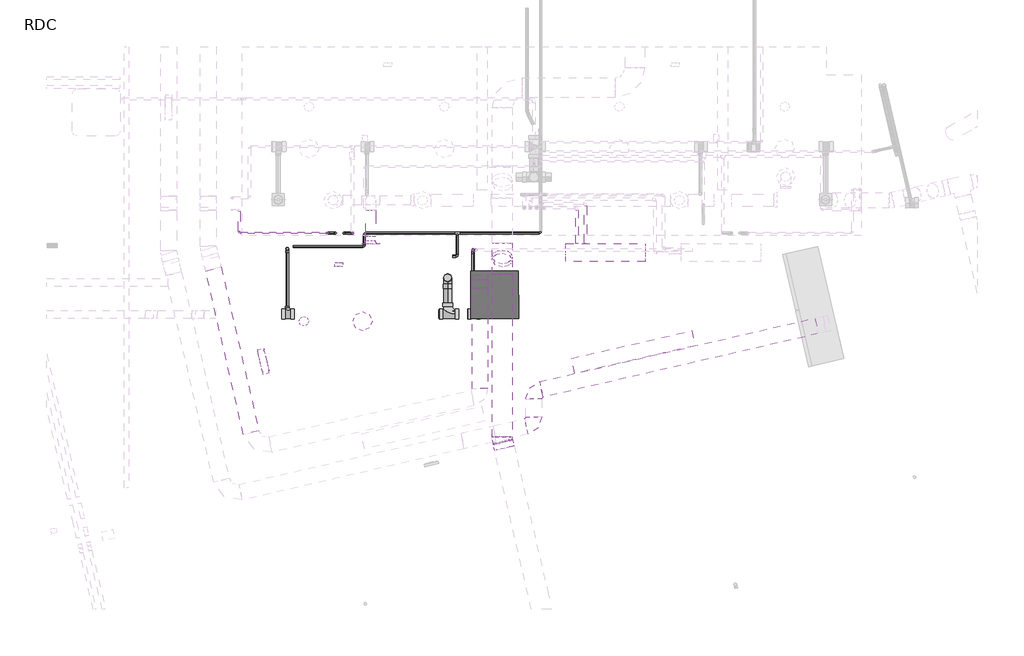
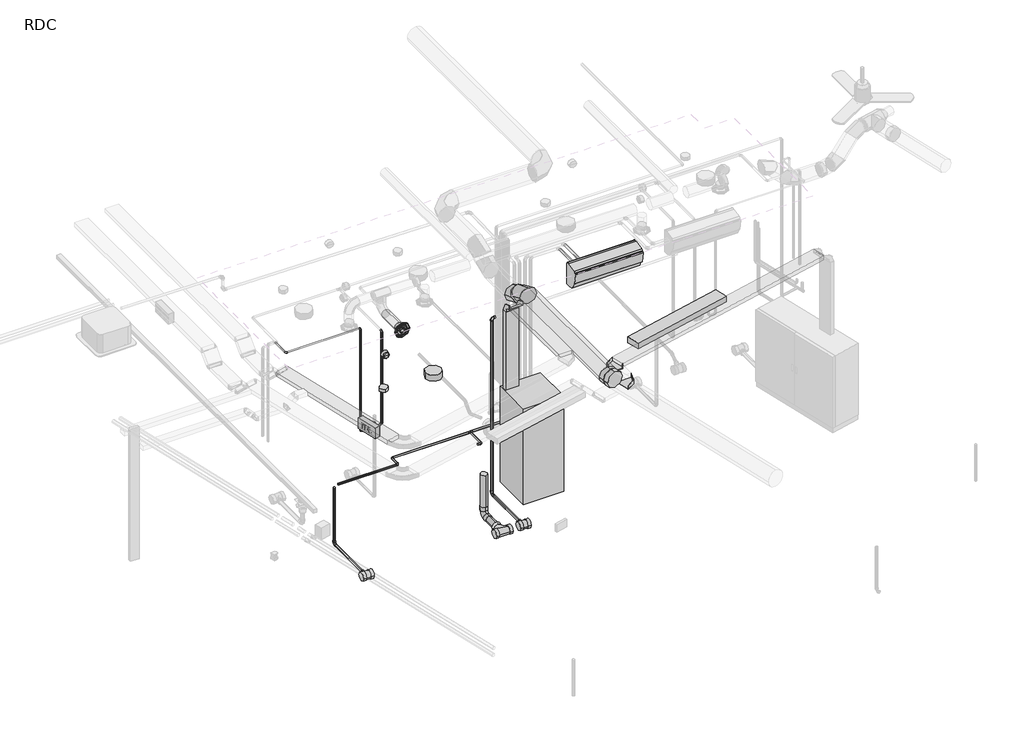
# One storey, part 9 of 15: 22 pipe segments, 19 pipe fittings, 4 cable carrier segments, 4 duct fittings, 4 duct segments, 3 cable carrier fittings, 3 light fixtures, 2 proxies, 3 other elements.
"""IFC4 building model written with IfcOpenShell, lengths in millimetres."""

from ifc_helpers import new_model, si_unit, point, frame, frame_2d, origin, place, context, project, spatial, polyline, circle_curve, trimmed, segment, composite_curve, outline, extrude, transform, mapped, element, save
from components import air_terminal_c84e8fe3, alarm_ff25f4bb, mechanical_equipment_eb6c6a63, electrical_equipment_537ff069, standaard_749a00b5, standaard_62cd015a, coude_circulaire_1_d_eb37eb53, coude_circulaire_1_d_31443521, coude_circulaire_1_d_f93f4f67, union_circulaire_standard_60d5a19b, light_fixture_1fd30b04, ai_luminaire_spot_downlight_a3_0014797d, c1_2018c24c, coude_ff_pvc_u_standard_af8978ce, coude_ff_pvc_u_standard_655a296a, coude_ff_pvc_u_standard_6e6e4d7c, coude_ff_pvc_u_standard_4c98eaa9, standard_59e20ca0, standard_27500dea, standard_3e3143c2, standard_705f3cdf, standard_2678962f, standard_7de1e32a, standard_f2ba753d, d_9511c083

model = new_model("IFC4")

# Units and contexts
model_context = context("Model", 3, world=origin())
ifc_project = project(units=[si_unit("LENGTHUNIT", "METRE", prefix="MILLI")], contexts=[model_context])

# Site, building, storey
site = spatial("IfcSite", under=ifc_project)
building = spatial("IfcBuilding", under=site)
storey = spatial("IfcBuildingStorey", under=building, Name="RDC", Elevation=0.0)

# Air terminal
placement = place(None, origin())
air_terminal_shape = air_terminal_c84e8fe3(model_context)
element("IfcAirTerminal", 1, ObjectType="AI_Bouche aération_Circulaire Extraction : ø125 mm", at=placement, inside=storey, context=model_context, shape_type="MappedRepresentation", body=[
    mapped(air_terminal_shape, transform((33792.8114691, 3719.2261889, 2618.466586), x_axis=(1.0, 1.1090538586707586e-08, 0.0), y_axis=(0.0, 0.0, -1.0000000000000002), z_axis=(-1.1090538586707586e-08, 1.0, 0.0))),
])

# Alarm
alarm_shape = alarm_ff25f4bb(model_context)
element("IfcAlarm", 2, ObjectType="AI_Incendie_Alarme incendie : Flash", at=placement, inside=storey, context=model_context, shape_type="MappedRepresentation", body=[
    mapped(alarm_shape, transform((33390.5364462, 3483.2117237, 2529.5993522), x_axis=(-1.0, 0.0, 0.0), y_axis=(0.0, -1.0, 0.0), z_axis=(0.0, 0.0, 1.0))),
])

# Proxies
mechanical_equipment_shape = mechanical_equipment_eb6c6a63(model_context)
element("IfcBuildingElementProxy", 3, Name="AI_Eqpmt genie clim_Unité intérieure de climatisation : AI_Eqpmt genie clim_Unité intérieure de climatisation", ObjectType="AI_Eqpmt genie clim_Unité intérieure de climatisation : AI_Eqpmt genie clim_Unité intérieure de climatisation", at=placement, inside=storey, context=model_context, shape_type="MappedRepresentation", body=[
    mapped(mechanical_equipment_shape, transform((36747.1335855, 3720.4697131, 2480.0), x_axis=(-1.0, 0.0, 0.0), y_axis=(0.0, -1.0, 0.0), z_axis=(0.0, 0.0, 1.0))),
])
electrical_equipment_shape = electrical_equipment_537ff069(model_context)
element("IfcBuildingElementProxy", 4, Name="AI_Eqpmt elec_Tableau Electrique : Baie de brassage 600x600", ObjectType="AI_Eqpmt elec_Tableau Electrique : Baie de brassage 600x600", at=placement, inside=storey, context=model_context, shape_type="MappedRepresentation", body=[
    mapped(electrical_equipment_shape, transform((35052.5032452, 2774.1373439, 0.0), x_axis=(0.9999986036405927, 0.0016711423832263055, 0.0), y_axis=(-0.0016711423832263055, 0.9999986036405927, 0.0), z_axis=(0.0, 0.0, 1.0))),
])

# Cable carrier fittings
standaard_shape = standaard_749a00b5(model_context)
element("IfcCableCarrierFitting", 5, ObjectType="AI_Raccord cdc_Coude horizontal rayon court : standaard", at=placement, inside=storey, context=model_context, shape_type="MappedRepresentation", body=[
    mapped(standaard_shape, transform((35845.6145705, 1863.6080572, 2470.0), x_axis=(-0.9743711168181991, -0.2249464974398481, 0.0), y_axis=(0.2249464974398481, -0.9743711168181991, 0.0), z_axis=(0.0, 0.0, 1.0))),
])
element("IfcCableCarrierFitting", 6, ObjectType="AI_Raccord cdc_Coude horizontal rayon court : standaard", at=placement, inside=storey, context=model_context, shape_type="MappedRepresentation", body=[
    mapped(standaard_shape, transform((35845.6145705, 1442.7022071, 2470.0), x_axis=(0.9743711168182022, 0.22494649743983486, 0.0), y_axis=(-0.22494649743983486, 0.9743711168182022, 0.0), z_axis=(0.0, 0.0, 1.0))),
])
standaard_2_shape = standaard_62cd015a(model_context)
element("IfcCableCarrierFitting", 7, ObjectType="AI_Raccord cdc_Coude desencdant : standaard", at=placement, inside=storey, context=model_context, shape_type="MappedRepresentation", body=[
    mapped(standaard_2_shape, transform((35168.4331978, 3291.7276745, 2856.9968882), x_axis=(0.0, 1.0, 0.0), y_axis=(0.0, 0.0, -1.0), z_axis=(-1.0, 0.0, 0.0))),
])

# Cable carrier segments
element("IfcCableCarrierSegment", 8, ObjectType="Par défaut", at=placement, inside=storey, context=model_context, shape_type="SweptSolid", body=[
    extrude(outline(polyline([(35962.0900116, 1787.8676579), (35917.1007121, 1982.7418813), (39376.9517384, 2781.4943859), (39421.9410379, 2586.6201626), (35962.0900116, 1787.8676579)])), frame((0.0, 0.0, 2440.0), z_axis=(0.0, 0.0, 1.0), x_axis=(1.0, 0.0, 0.0)), (0.0, 0.0, 1.0), 60.0),
])
element("IfcCableCarrierSegment", 9, ObjectType="Par défaut", at=placement, inside=storey, context=model_context, shape_type="SweptSolid", body=[
    extrude(outline(polyline([(35268.4331978, 1895.9701724), (35068.4331978, 1895.9701724), (35068.4331978, 3160.7276745), (35268.4331978, 3160.7276745), (35268.4331978, 1895.9701724)])), frame((0.0, 0.0, 2826.9968882), z_axis=(0.0, 0.0, 1.0), x_axis=(1.0, 0.0, 0.0)), (0.0, 0.0, 1.0), 60.0),
])
element("IfcCableCarrierSegment", 10, ObjectType="Par défaut", at=placement, inside=storey, context=model_context, shape_type="SweptSolid", body=[
    extrude(outline(polyline([(32389.1538262, 1364.1707968), (32194.2796029, 1319.1814974), (31719.3165471, 3376.5164119), (31914.1907705, 3421.5057114), (32389.1538262, 1364.1707968)])), frame((0.0, 0.0, 2826.9968882), z_axis=(0.0, 0.0, 1.0), x_axis=(1.0, 0.0, 0.0)), (0.0, 0.0, 1.0), 60.0),
])
element("IfcCableCarrierSegment", 11, ObjectType="Par défaut", at=placement, inside=storey, context=model_context, shape_type="SweptSolid", body=[
    extrude(outline(polyline([(35268.4331978, 3261.7276745), (35068.4331978, 3261.7276745), (35068.4331978, 3321.7276745), (35268.4331978, 3321.7276745), (35268.4331978, 3261.7276745)])), frame((0.0, 0.0, 1500.0), z_axis=(0.0, 0.0, 1.0), x_axis=(1.0, 0.0, 0.0)), (0.0, 0.0, 1.0), 1225.9968882),
])

# Duct fittings
coude_circulaire_1_d_shape = coude_circulaire_1_d_eb37eb53(model_context)
element("IfcDuctFitting", 12, ObjectType="Coude circulaire : 1 D", at=placement, inside=storey, context=model_context, shape_type="MappedRepresentation", body=[
    mapped(coude_circulaire_1_d_shape, transform((35447.7742038, 3625.2016603, 2625.4415588), x_axis=(0.0, -1.0, 0.0), y_axis=(0.0, 0.0, 1.0), z_axis=(-1.0, 0.0, 0.0))),
])
coude_circulaire_1_d_2_shape = coude_circulaire_1_d_31443521(model_context)
element("IfcDuctFitting", 13, ObjectType="Coude circulaire : 1 D", at=placement, inside=storey, context=model_context, shape_type="MappedRepresentation", body=[
    mapped(coude_circulaire_1_d_2_shape, transform((35447.7742038, 1258.7009649, 2809.9241255), x_axis=(0.0, -0.9999999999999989, 4.87450699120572e-08), y_axis=(0.9999997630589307, -3.3555664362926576e-11, -0.0006883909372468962), z_axis=(0.0006883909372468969, 4.8745058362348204e-08, 0.9999997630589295))),
])
coude_circulaire_1_d_3_shape = coude_circulaire_1_d_f93f4f67(model_context)
element("IfcDuctFitting", 14, ObjectType="Coude circulaire : 1 D", at=placement, inside=storey, context=model_context, shape_type="MappedRepresentation", body=[
    mapped(coude_circulaire_1_d_3_shape, transform((35447.7742038, 3440.7234585, 2809.9197606), x_axis=(0.0, -0.7071067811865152, 0.70710678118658), y_axis=(0.0, -0.70710678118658, -0.7071067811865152), z_axis=(1.0, 0.0, 0.0))),
])
union_circulaire_standard_shape = union_circulaire_standard_60d5a19b(model_context)
element("IfcDuctFitting", 15, ObjectType="Union circulaire : Standard", at=placement, inside=storey, context=model_context, shape_type="MappedRepresentation", body=[
    mapped(union_circulaire_standard_shape, transform((35457.1964705, 1217.8899247, 2809.9176412), x_axis=(0.22495775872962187, -0.9743685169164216, -5.425734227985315e-06), y_axis=(0.9743685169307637, 0.22495775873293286, 4.384215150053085e-11), z_axis=(1.2205182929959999e-06, -5.286674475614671e-06, 0.9999999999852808))),
])

# Duct segments
element("IfcDuctSegment", 16, ObjectType="Circulaire - Té", at=placement, inside=storey, context=model_context, shape_type="SweptSolid", body=[
    extrude(outline(composite_curve([segment(trimmed(circle_curve(frame_2d((0.0, 125.0)), 125.0), [point((0.0, 0.0))], [point((-125.0, 125.0))], False, "CARTESIAN"), True, "CONTINUOUS"), segment(trimmed(circle_curve(frame_2d((0.0, 125.0)), 125.0), [point((-125.0, 125.0))], [point((0.0, 250.0))], False, "CARTESIAN"), True, "CONTINUOUS"), segment(trimmed(circle_curve(frame_2d((0.0, 125.0)), 125.0), [point((0.0, 250.0))], [point((125.0, 125.0))], False, "CARTESIAN"), True, "CONTINUOUS"), segment(trimmed(circle_curve(frame_2d((0.0, 125.0)), 125.0), [point((125.0, 125.0))], [point((0.0, 0.0))], False, "CARTESIAN"), True, "CONTINUOUS")], self_intersect=False)), frame((35322.7742038, 3337.170075, 2809.9197657), z_axis=(0.0, -0.99999999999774, 2.126060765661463e-06), x_axis=(0.0, -2.126060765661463e-06, -0.99999999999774)), (0.0, 0.0, 1.0), 2049.9843306),
])
element("IfcDuctSegment", 17, ObjectType="Circulaire - Té", at=placement, inside=storey, context=model_context, shape_type="SweptSolid", body=[
    extrude(outline(composite_curve([segment(trimmed(circle_curve(frame_2d((0.0, 62.5)), 62.5), [point((0.0, 125.0))], [point((62.5, 62.5))], False, "CARTESIAN"), True, "CONTINUOUS"), segment(trimmed(circle_curve(frame_2d((0.0, 62.5)), 62.5), [point((62.5, 62.5))], [point((0.0, 0.0))], False, "CARTESIAN"), True, "CONTINUOUS"), segment(trimmed(circle_curve(frame_2d((0.0, 62.5)), 62.5), [point((0.0, 0.0))], [point((-62.5, 62.5))], False, "CARTESIAN"), True, "CONTINUOUS"), segment(trimmed(circle_curve(frame_2d((0.0, 62.5)), 62.5), [point((-62.5, 62.5))], [point((0.0, 125.0))], False, "CARTESIAN"), True, "CONTINUOUS")], self_intersect=False)), frame((33730.3114681, 3805.8261883, 2618.466586), z_axis=(-1.084460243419e-08, 1.0, 0.0), x_axis=(0.0, 0.0, 1.0)), (0.0, 0.0, 1.0), 332.5466997),
])
element("IfcDuctSegment", 18, ObjectType="Circulaire - Té", at=placement, inside=storey, context=model_context, shape_type="SweptSolid", body=[
    extrude(outline(composite_curve([segment(trimmed(circle_curve(frame_2d((0.0, -125.0)), 125.0), [point((-125.0, -125.0))], [point((0.0, 0.0))], False, "CARTESIAN"), True, "CONTINUOUS"), segment(trimmed(circle_curve(frame_2d((0.0, -125.0)), 125.0), [point((0.0, 0.0))], [point((125.0, -125.0))], False, "CARTESIAN"), True, "CONTINUOUS"), segment(trimmed(circle_curve(frame_2d((0.0, -125.0)), 125.0), [point((125.0, -125.0))], [point((0.0, -250.0))], False, "CARTESIAN"), True, "CONTINUOUS"), segment(trimmed(circle_curve(frame_2d((0.0, -125.0)), 125.0), [point((0.0, -250.0))], [point((-125.0, -125.0))], False, "CARTESIAN"), True, "CONTINUOUS")], self_intersect=False)), frame((35457.1964705, 1217.8899247, 2684.9197157), z_axis=(-0.2249577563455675, 0.9743685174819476, 0.0), x_axis=(0.9743685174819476, 0.2249577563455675, 0.0)), (0.0, 0.0, 1.0), 13.3998311),
])
element("IfcDuctSegment", 19, ObjectType="Circulaire - Té", at=placement, inside=storey, context=model_context, shape_type="SweptSolid", body=[
    extrude(outline(composite_curve([segment(trimmed(circle_curve(frame_2d((0.0, 125.0)), 125.0), [point((-125.0, 125.0))], [point((0.0, 250.0))], False, "CARTESIAN"), True, "CONTINUOUS"), segment(trimmed(circle_curve(frame_2d((0.0, 125.0)), 125.0), [point((0.0, 250.0))], [point((125.0, 125.0))], False, "CARTESIAN"), True, "CONTINUOUS"), segment(trimmed(circle_curve(frame_2d((0.0, 125.0)), 125.0), [point((125.0, 125.0))], [point((0.0, 0.0))], False, "CARTESIAN"), True, "CONTINUOUS"), segment(trimmed(circle_curve(frame_2d((0.0, 125.0)), 125.0), [point((0.0, 0.0))], [point((-125.0, 125.0))], False, "CARTESIAN"), True, "CONTINUOUS")], self_intersect=False)), frame((35447.7742038, 3463.590008, 2610.2765158), z_axis=(0.0, -0.707106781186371, 0.7071067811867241), x_axis=(1.0, 0.0, 0.0)), (0.0, 0.0, 1.0), 53.784801),
])

# Light fixtures
light_fixture_shape = light_fixture_1fd30b04(model_context)
element("IfcLightFixture", 20, ObjectType="AI_Luminaire_BAES : Sortie", at=placement, inside=storey, context=model_context, shape_type="MappedRepresentation", body=[
    mapped(light_fixture_shape, transform((32445.2740237, 2237.3147661, 2420.4480749), x_axis=(0.22495105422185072, -0.9743700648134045, 0.0), y_axis=(0.9743700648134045, 0.22495105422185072, 0.0), z_axis=(0.0, 0.0, 1.0))),
])
ai_luminaire_spot_downlight_a3_shape = ai_luminaire_spot_downlight_a3_0014797d(model_context)
element("IfcLightFixture", 21, ObjectType="AI_Luminaire_Spot Downlight : A4", at=placement, inside=storey, context=model_context, shape_type="MappedRepresentation", body=[
    mapped(ai_luminaire_spot_downlight_a3_shape, transform((33692.4283118, 2742.6519707, 2610.0), x_axis=(1.0, 0.0, 0.0), y_axis=(0.0, 1.0, 0.0), z_axis=(0.0, 0.0, 1.0))),
])
c1_shape = c1_2018c24c(model_context)
element("IfcLightFixture", 22, ObjectType="AI_Luminaire_Réglette locaux techniques et parkings : C1", at=placement, inside=storey, context=model_context, shape_type="MappedRepresentation", body=[
    mapped(c1_shape, transform((37095.3340951, 2354.8172296, 2500.0), x_axis=(0.9743711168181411, 0.22494649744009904, 0.0), y_axis=(-0.22494649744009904, 0.9743711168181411, 0.0), z_axis=(0.0, 0.0, 1.0))),
])

# Pipe fittings
coude_ff_pvc_u_standard_shape = coude_ff_pvc_u_standard_af8978ce(model_context)
element("IfcPipeFitting", 23, ObjectType="Coude - FF - PVC-U : Standard", at=placement, inside=storey, context=model_context, shape_type="MappedRepresentation", body=[
    mapped(coude_ff_pvc_u_standard_shape, transform((32747.2454345, 3654.0745089, -337.6207856), x_axis=(3.547288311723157e-05, 0.0, -0.9999999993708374), y_axis=(-2.724041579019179e-08, -0.9999999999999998, 0.0), z_axis=(-0.999999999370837, 2.724041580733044e-08, -3.547288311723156e-05))),
])
coude_ff_pvc_u_standard_2_shape = coude_ff_pvc_u_standard_655a296a(model_context)
element("IfcPipeFitting", 24, ObjectType="Coude - FF - PVC-U : Standard", at=placement, inside=storey, context=model_context, shape_type="MappedRepresentation", body=[
    mapped(coude_ff_pvc_u_standard_2_shape, transform((34761.5002301, 3289.4310661, -358.933847), x_axis=(3.4836021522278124e-05, 0.0, -0.9999999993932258), y_axis=(6.745219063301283e-08, -0.9999999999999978, 2.3497659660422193e-12), z_axis=(-0.9999999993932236, -6.745219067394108e-08, -3.483602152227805e-05))),
])
coude_ff_pvc_u_standard_3_shape = coude_ff_pvc_u_standard_6e6e4d7c(model_context)
element("IfcPipeFitting", 25, ObjectType="Coude - FF - PVC-U : Standard", at=placement, inside=storey, context=model_context, shape_type="MappedRepresentation", body=[
    mapped(coude_ff_pvc_u_standard_3_shape, transform((35082.0810782, 3638.1434665, -361.5485338), x_axis=(0.0, 0.0, -1.0), y_axis=(0.0, -1.0, 0.0), z_axis=(-1.0, 0.0, 0.0))),
])
coude_ff_pvc_u_standard_4_shape = coude_ff_pvc_u_standard_4c98eaa9(model_context)
element("IfcPipeFitting", 26, ObjectType="Coude - FF - PVC-U : Standard", at=placement, inside=storey, context=model_context, shape_type="MappedRepresentation", body=[
    mapped(coude_ff_pvc_u_standard_4_shape, transform((35082.0810782, 3638.1434665, 2402.254311), x_axis=(-0.9998875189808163, 0.0, -0.014998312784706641), y_axis=(0.014998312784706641, 0.0, -0.9998875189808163), z_axis=(0.0, -1.0, 0.0))),
])
standard_shape = standard_59e20ca0(model_context)
element("IfcPipeFitting", 27, ObjectType="Coude - Générique1 : Standard", at=placement, inside=storey, context=model_context, shape_type="MappedRepresentation", body=[
    mapped(standard_shape, transform((34883.3061384, 3559.6976986, 550.7021999), x_axis=(0.999999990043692, 1.582188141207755e-05, 0.00014022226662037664), y_axis=(-1.582250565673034e-05, 0.9999999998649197, 4.4507143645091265e-06), z_axis=(-0.00014022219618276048, -4.4529329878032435e-06, 0.9999999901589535))),
])
standard_2_shape = standard_27500dea(model_context)
element("IfcPipeFitting", 28, ObjectType="EG-RCAN Té sanitaire de réduction - PVC - Nom. 40 - DWV : Standard", at=placement, inside=storey, context=model_context, shape_type="MappedRepresentation", body=[
    mapped(standard_2_shape, transform((32747.2456796, 2832.6862635, -338.1795416), x_axis=(-0.9999500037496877, 0.0, 0.00999950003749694), y_axis=(-7.678420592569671e-06, -0.9999997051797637, -0.0007678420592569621), z_axis=(0.009999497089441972, -0.0007678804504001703, 0.999949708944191))),
])
standard_3_shape = standard_3e3143c2(model_context)
element("IfcPipeFitting", 29, ObjectType="EG-RCAN Té sanitaire de réduction - PVC - Nom. 40 - DWV : Standard", at=placement, inside=storey, context=model_context, shape_type="MappedRepresentation", body=[
    mapped(standard_3_shape, transform((34761.4999901, 2832.6862635, -358.3220847), x_axis=(-0.9999500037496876, 0.0, 0.009999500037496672), y_axis=(1.9360724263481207e-05, -0.9999981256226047, 0.0019360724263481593), z_axis=(0.009999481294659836, 0.0019361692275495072, 0.999948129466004))),
])
standard_4_shape = standard_705f3cdf(model_context)
element("IfcPipeFitting", 30, ObjectType="EG-RCAN Té sanitaire de réduction - PVC - Nom. 40 - DWV : Standard", at=placement, inside=storey, context=model_context, shape_type="MappedRepresentation", body=[
    mapped(standard_4_shape, transform((35082.0810782, 2832.6862635, -361.5278956), x_axis=(-0.9999500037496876, 0.0, 0.009999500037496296), y_axis=(2.899592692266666e-07, -0.9999999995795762, 2.8995926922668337e-05), z_axis=(0.009999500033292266, 2.8997376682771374e-05, 0.9999500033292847))),
])
standard_5_shape = standard_2678962f(model_context)
element("IfcPipeFitting", 31, ObjectType="Coude - Générique1 : Standard", at=placement, inside=storey, context=model_context, shape_type="MappedRepresentation", body=[
    mapped(standard_5_shape, transform((33455.8300042, 3851.7284903, 1134.9792289), x_axis=(0.0, 0.0, -1.0), y_axis=(0.9999999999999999, 1.4342634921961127e-08, 0.0), z_axis=(1.4342634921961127e-08, -0.9999999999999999, 0.0))),
])
element("IfcPipeFitting", 32, ObjectType="Coude - Générique1 : Standard", at=placement, inside=storey, context=model_context, shape_type="MappedRepresentation", body=[
    mapped(standard_5_shape, transform((33565.538418, 3851.7284919, 1134.9792289), x_axis=(1.0, 1.4342614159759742e-08, 0.0), y_axis=(0.0, 0.0, 1.0000000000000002), z_axis=(1.4342614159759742e-08, -1.0, 0.0))),
])
element("IfcPipeFitting", 33, ObjectType="Coude - Générique1 : Standard", at=placement, inside=storey, context=model_context, shape_type="MappedRepresentation", body=[
    mapped(standard_5_shape, transform((33565.538418, 3851.7284919, 2602.0893087), x_axis=(0.0, 0.0, 1.0), y_axis=(0.0, 1.0, 0.0), z_axis=(-1.0, 0.0, 0.0))),
])
element("IfcPipeFitting", 34, ObjectType="Coude - Générique1 : Standard", at=placement, inside=storey, context=model_context, shape_type="MappedRepresentation", body=[
    mapped(standard_5_shape, transform((35931.0163974, 3851.7263404, 550.7), x_axis=(1.0, 0.0, 0.0), y_axis=(0.0, 0.9999999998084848, -1.9571164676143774e-05), z_axis=(0.0, 1.9571164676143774e-05, 0.9999999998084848))),
])
element("IfcPipeFitting", 35, ObjectType="Coude - Générique1 : Standard", at=placement, inside=storey, context=model_context, shape_type="MappedRepresentation", body=[
    mapped(standard_5_shape, transform((33714.3061384, 3851.7263404, 550.7), x_axis=(-1.0, 0.0, 0.0), y_axis=(0.0, -0.9999999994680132, -3.261860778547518e-05), z_axis=(0.0, -3.261860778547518e-05, 0.9999999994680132))),
])
element("IfcPipeFitting", 36, ObjectType="Coude - Générique1 : Standard", at=placement, inside=storey, context=model_context, shape_type="MappedRepresentation", body=[
    mapped(standard_5_shape, transform((33714.3061384, 3681.7263404, 550.6941287), x_axis=(1.0, 0.0, 0.0), y_axis=(0.0, 0.9999999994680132, 3.2618607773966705e-05), z_axis=(0.0, -3.2618607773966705e-05, 0.9999999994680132))),
])
standard_6_shape = standard_7de1e32a(model_context)
element("IfcPipeFitting", 37, ObjectType="Coude - Générique1 : Standard", at=placement, inside=storey, context=model_context, shape_type="MappedRepresentation", body=[
    mapped(standard_6_shape, transform((33355.8300042, 3851.726328, 1134.9792289), x_axis=(0.0, 0.0, -1.0), y_axis=(0.9999999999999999, 1.4342639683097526e-08, 0.0), z_axis=(1.4342639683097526e-08, -0.9999999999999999, 0.0))),
])
element("IfcPipeFitting", 38, ObjectType="Coude - Générique1 : Standard", at=placement, inside=storey, context=model_context, shape_type="MappedRepresentation", body=[
    mapped(standard_6_shape, transform((33253.4139802, 3851.7263265, 1134.9792289), x_axis=(-0.9999999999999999, -1.434263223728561e-08, 0.0), y_axis=(0.0, 0.0, -1.0), z_axis=(1.434263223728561e-08, -0.9999999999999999, 0.0))),
])
element("IfcPipeFitting", 39, ObjectType="Coude - Générique1 : Standard", at=placement, inside=storey, context=model_context, shape_type="MappedRepresentation", body=[
    mapped(standard_6_shape, transform((33253.4139802, 3851.7263265, 2752.0893087), x_axis=(0.0, 0.0, 1.0), y_axis=(0.9999999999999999, 1.4342638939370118e-08, 0.0), z_axis=(-1.4342638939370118e-08, 0.9999999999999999, 0.0))),
])
element("IfcPipeFitting", 40, ObjectType="Coude - Générique1 : Standard", at=placement, inside=storey, context=model_context, shape_type="MappedRepresentation", body=[
    mapped(standard_6_shape, transform((32141.8155376, 3851.7263263, 2752.0893087), x_axis=(-1.0, 0.0, 0.0), y_axis=(0.0, -1.0, 0.0), z_axis=(0.0, 0.0, 1.0))),
])
standard_7_shape = standard_f2ba753d(model_context)
element("IfcPipeFitting", 41, ObjectType="Té - Générique : Standard", at=placement, inside=storey, context=model_context, shape_type="MappedRepresentation", body=[
    mapped(standard_7_shape, transform((34883.3061384, 3851.7263404, 550.7), x_axis=(-1.0, 0.0, 0.0), y_axis=(0.0, 0.9999999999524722, -9.749641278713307e-06), z_axis=(0.0, -9.749641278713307e-06, -0.9999999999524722))),
])

# Pipe segments
element("IfcPipeSegment", 42, ObjectType="Cuivre - Té", at=placement, inside=storey, context=model_context, shape_type="SweptSolid", body=[
    extrude(outline(composite_curve([segment(trimmed(circle_curve(frame_2d((33355.8300042, 3851.726328)), 9.525), [point((33365.3550042, 3851.726328))], [point((33355.8300042, 3842.201328))], False, "CARTESIAN"), True, "CONTINUOUS"), segment(trimmed(circle_curve(frame_2d((33355.8300042, 3851.726328)), 9.525), [point((33355.8300042, 3842.201328))], [point((33346.3050042, 3851.726328))], False, "CARTESIAN"), True, "CONTINUOUS"), segment(trimmed(circle_curve(frame_2d((33355.8300042, 3851.726328)), 9.525), [point((33346.3050042, 3851.726328))], [point((33355.8300042, 3861.251328))], False, "CARTESIAN"), True, "CONTINUOUS"), segment(trimmed(circle_curve(frame_2d((33355.8300042, 3851.726328)), 9.525), [point((33355.8300042, 3861.251328))], [point((33365.3550042, 3851.726328))], False, "CARTESIAN"), True, "CONTINUOUS")], self_intersect=False)), frame((0.0, 0.0, 1153.8909477), z_axis=(0.0, 0.0, 1.0), x_axis=(1.0, 0.0, 0.0)), (0.0, 0.0, 1.0), 46.1090523),
])
element("IfcPipeSegment", 43, ObjectType="Cuivre - Té", at=placement, inside=storey, context=model_context, shape_type="SweptSolid", body=[
    extrude(outline(composite_curve([segment(trimmed(circle_curve(frame_2d((0.0, -9.525)), 9.525), [point((-9.525, -9.525))], [point((0.0, 0.0))], False, "CARTESIAN"), True, "CONTINUOUS"), segment(trimmed(circle_curve(frame_2d((0.0, -9.525)), 9.525), [point((0.0, 0.0))], [point((9.525, -9.525))], False, "CARTESIAN"), True, "CONTINUOUS"), segment(trimmed(circle_curve(frame_2d((0.0, -9.525)), 9.525), [point((9.525, -9.525))], [point((0.0, -19.05))], False, "CARTESIAN"), True, "CONTINUOUS"), segment(trimmed(circle_curve(frame_2d((0.0, -9.525)), 9.525), [point((0.0, -19.05))], [point((-9.525, -9.525))], False, "CARTESIAN"), True, "CONTINUOUS")], self_intersect=False)), frame((33272.325699, 3851.7263268, 1125.4542289), z_axis=(1.0, 1.4342631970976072e-08, 0.0), x_axis=(1.4342631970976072e-08, -1.0, 0.0)), (0.0, 0.0, 1.0), 64.5925864),
])
element("IfcPipeSegment", 44, ObjectType="Cuivre - Té", at=placement, inside=storey, context=model_context, shape_type="SweptSolid", body=[
    extrude(outline(composite_curve([segment(trimmed(circle_curve(frame_2d((33253.4139802, 3851.7263265)), 9.525), [point((33243.8889802, 3851.7263265))], [point((33253.4139802, 3861.2513265))], False, "CARTESIAN"), True, "CONTINUOUS"), segment(trimmed(circle_curve(frame_2d((33253.4139802, 3851.7263265)), 9.525), [point((33253.4139802, 3861.2513265))], [point((33262.9389802, 3851.7263265))], False, "CARTESIAN"), True, "CONTINUOUS"), segment(trimmed(circle_curve(frame_2d((33253.4139802, 3851.7263265)), 9.525), [point((33262.9389802, 3851.7263265))], [point((33253.4139802, 3842.2013265))], False, "CARTESIAN"), True, "CONTINUOUS"), segment(trimmed(circle_curve(frame_2d((33253.4139802, 3851.7263265)), 9.525), [point((33253.4139802, 3842.2013265))], [point((33243.8889802, 3851.7263265))], False, "CARTESIAN"), True, "CONTINUOUS")], self_intersect=False)), frame((0.0, 0.0, 1153.8909477), z_axis=(0.0, 0.0, 1.0), x_axis=(1.0, 0.0, 0.0)), (0.0, 0.0, 1.0), 1579.2866423),
])
element("IfcPipeSegment", 45, ObjectType="Cuivre - Té", at=placement, inside=storey, context=model_context, shape_type="SweptSolid", body=[
    extrude(outline(composite_curve([segment(trimmed(circle_curve(frame_2d((3851.7263263, 2752.0893087)), 9.525), [point((3861.2513263, 2752.0893087))], [point((3851.7263263, 2742.5643087))], False, "CARTESIAN"), True, "CONTINUOUS"), segment(trimmed(circle_curve(frame_2d((3851.7263263, 2752.0893087)), 9.525), [point((3851.7263263, 2742.5643087))], [point((3842.2013263, 2752.0893087))], False, "CARTESIAN"), True, "CONTINUOUS"), segment(trimmed(circle_curve(frame_2d((3851.7263263, 2752.0893087)), 9.525), [point((3842.2013263, 2752.0893087))], [point((3851.7263263, 2761.6143087))], False, "CARTESIAN"), True, "CONTINUOUS"), segment(trimmed(circle_curve(frame_2d((3851.7263263, 2752.0893087)), 9.525), [point((3851.7263263, 2761.6143087))], [point((3861.2513263, 2752.0893087))], False, "CARTESIAN"), True, "CONTINUOUS")], self_intersect=False)), frame((32160.7272563, 0.0, 0.0), z_axis=(1.0, 0.0, 0.0), x_axis=(0.0, 1.0, 0.0)), (0.0, 0.0, 1.0), 1073.7750052),
])
element("IfcPipeSegment", 46, ObjectType="Cuivre - Té", at=placement, inside=storey, context=model_context, shape_type="SweptSolid", body=[
    extrude(outline(composite_curve([segment(trimmed(circle_curve(frame_2d((2752.0893087, 32141.8155376)), 9.525), [point((2752.0893087, 32151.3405376))], [point((2761.6143087, 32141.8155376))], False, "CARTESIAN"), True, "CONTINUOUS"), segment(trimmed(circle_curve(frame_2d((2752.0893087, 32141.8155376)), 9.525), [point((2761.6143087, 32141.8155376))], [point((2752.0893087, 32132.2905376))], False, "CARTESIAN"), True, "CONTINUOUS"), segment(trimmed(circle_curve(frame_2d((2752.0893087, 32141.8155376)), 9.525), [point((2752.0893087, 32132.2905376))], [point((2742.5643087, 32141.8155376))], False, "CARTESIAN"), True, "CONTINUOUS"), segment(trimmed(circle_curve(frame_2d((2752.0893087, 32141.8155376)), 9.525), [point((2742.5643087, 32141.8155376))], [point((2752.0893087, 32151.3405376))], False, "CARTESIAN"), True, "CONTINUOUS")], self_intersect=False)), frame((0.0, 3870.638045, 0.0), z_axis=(0.0, 1.0, 0.0), x_axis=(0.0, 0.0, 1.0)), (0.0, 0.0, 1.0), 254.5745008),
])
element("IfcPipeSegment", 47, ObjectType="PVC Pression HTA", at=placement, inside=storey, context=model_context, shape_type="SweptSolid", body=[
    extrude(outline(composite_curve([segment(trimmed(circle_curve(frame_2d((33455.8300042, 3851.7284903)), 13.335), [point((33469.1650042, 3851.7284903))], [point((33455.8300042, 3838.3934903))], False, "CARTESIAN"), True, "CONTINUOUS"), segment(trimmed(circle_curve(frame_2d((33455.8300042, 3851.7284903)), 13.335), [point((33455.8300042, 3838.3934903))], [point((33442.4950042, 3851.7284903))], False, "CARTESIAN"), True, "CONTINUOUS"), segment(trimmed(circle_curve(frame_2d((33455.8300042, 3851.7284903)), 13.335), [point((33442.4950042, 3851.7284903))], [point((33455.8300042, 3865.0634903))], False, "CARTESIAN"), True, "CONTINUOUS"), segment(trimmed(circle_curve(frame_2d((33455.8300042, 3851.7284903)), 13.335), [point((33455.8300042, 3865.0634903))], [point((33469.1650042, 3851.7284903))], False, "CARTESIAN"), True, "CONTINUOUS")], self_intersect=False)), frame((0.0, 0.0, 1153.8909477), z_axis=(0.0, 0.0, 1.0), x_axis=(1.0, 0.0, 0.0)), (0.0, 0.0, 1.0), 46.1285836),
])
element("IfcPipeSegment", 48, ObjectType="PVC Pression HTA", at=placement, inside=storey, context=model_context, shape_type="SweptSolid", body=[
    extrude(outline(composite_curve([segment(trimmed(circle_curve(frame_2d((0.0, 13.335)), 13.335), [point((-13.335, 13.335))], [point((0.0, 26.67))], False, "CARTESIAN"), True, "CONTINUOUS"), segment(trimmed(circle_curve(frame_2d((0.0, 13.335)), 13.335), [point((0.0, 26.67))], [point((13.335, 13.335))], False, "CARTESIAN"), True, "CONTINUOUS"), segment(trimmed(circle_curve(frame_2d((0.0, 13.335)), 13.335), [point((13.335, 13.335))], [point((0.0, 0.0))], False, "CARTESIAN"), True, "CONTINUOUS"), segment(trimmed(circle_curve(frame_2d((0.0, 13.335)), 13.335), [point((0.0, 0.0))], [point((-13.335, 13.335))], False, "CARTESIAN"), True, "CONTINUOUS")], self_intersect=False)), frame((33474.7417229, 3851.7284906, 1121.6442289), z_axis=(1.0, 1.4342631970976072e-08, 0.0), x_axis=(-1.4342631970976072e-08, 1.0, 0.0)), (0.0, 0.0, 1.0), 71.8849764),
])
element("IfcPipeSegment", 49, ObjectType="PVC Pression HTA", at=placement, inside=storey, context=model_context, shape_type="SweptSolid", body=[
    extrude(outline(composite_curve([segment(trimmed(circle_curve(frame_2d((33565.538418, 3851.7284919)), 13.335), [point((33552.203418, 3851.7284919))], [point((33565.538418, 3865.0634919))], False, "CARTESIAN"), True, "CONTINUOUS"), segment(trimmed(circle_curve(frame_2d((33565.538418, 3851.7284919)), 13.335), [point((33565.538418, 3865.0634919))], [point((33578.873418, 3851.7284919))], False, "CARTESIAN"), True, "CONTINUOUS"), segment(trimmed(circle_curve(frame_2d((33565.538418, 3851.7284919)), 13.335), [point((33578.873418, 3851.7284919))], [point((33565.538418, 3838.3934919))], False, "CARTESIAN"), True, "CONTINUOUS"), segment(trimmed(circle_curve(frame_2d((33565.538418, 3851.7284919)), 13.335), [point((33565.538418, 3838.3934919))], [point((33552.203418, 3851.7284919))], False, "CARTESIAN"), True, "CONTINUOUS")], self_intersect=False)), frame((0.0, 0.0, 1153.8909477), z_axis=(0.0, 0.0, 1.0), x_axis=(1.0, 0.0, 0.0)), (0.0, 0.0, 1.0), 1429.2866423),
])
element("IfcPipeSegment", 50, ObjectType="PVC Pression HTA", at=placement, inside=storey, context=model_context, shape_type="SweptSolid", body=[
    extrude(outline(composite_curve([segment(trimmed(circle_curve(frame_2d((0.0, 13.335)), 13.335), [point((-13.335, 13.335))], [point((-1e-07, 26.67))], False, "CARTESIAN"), True, "CONTINUOUS"), segment(trimmed(circle_curve(frame_2d((0.0, 13.335)), 13.335), [point((-1e-07, 26.67))], [point((13.335, 13.3350001))], False, "CARTESIAN"), True, "CONTINUOUS"), segment(trimmed(circle_curve(frame_2d((0.0, 13.335)), 13.335), [point((13.335, 13.3350001))], [point((0.0, 0.0))], False, "CARTESIAN"), True, "CONTINUOUS"), segment(trimmed(circle_curve(frame_2d((0.0, 13.335)), 13.335), [point((0.0, 0.0))], [point((-13.335, 13.335))], False, "CARTESIAN"), True, "CONTINUOUS")], self_intersect=False)), frame((34825.7475523, 3559.6967879, 537.3591288), z_axis=(0.9999999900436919, 1.5821881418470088e-05, 0.0001402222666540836), x_axis=(-1.582188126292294e-05, 0.9999999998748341, -2.2185799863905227e-09)), (0.0, 0.0, 1.0), 38.6487376),
])
element("IfcPipeSegment", 51, ObjectType="PVC Pression HTA", at=placement, inside=storey, context=model_context, shape_type="SweptSolid", body=[
    extrude(outline(composite_curve([segment(trimmed(circle_curve(frame_2d((550.7022841, 34883.3061384)), 13.335), [point((550.7022841, 34896.6411384))], [point((564.0372841, 34883.3061384))], False, "CARTESIAN"), True, "CONTINUOUS"), segment(trimmed(circle_curve(frame_2d((550.7022841, 34883.3061384)), 13.335), [point((564.0372841, 34883.3061384))], [point((550.7022841, 34869.9711384))], False, "CARTESIAN"), True, "CONTINUOUS"), segment(trimmed(circle_curve(frame_2d((550.7022841, 34883.3061384)), 13.335), [point((550.7022841, 34869.9711384))], [point((537.3672841, 34883.3061384))], False, "CARTESIAN"), True, "CONTINUOUS"), segment(trimmed(circle_curve(frame_2d((550.7022841, 34883.3061384)), 13.335), [point((537.3672841, 34883.3061384))], [point((550.7022841, 34896.6411384))], False, "CARTESIAN"), True, "CONTINUOUS")], self_intersect=False)), frame((0.0, 3578.6094173, 0.0), z_axis=(0.0, 1.0, 0.0), x_axis=(0.0, 0.0, 1.0)), (0.0, 0.0, 1.0), 244.1169231),
])
element("IfcPipeSegment", 52, ObjectType="PVC Pression HTA", at=placement, inside=storey, context=model_context, shape_type="SweptSolid", body=[
    extrude(outline(composite_curve([segment(trimmed(circle_curve(frame_2d((3851.7263404, 550.7)), 13.335), [point((3838.3913404, 550.7))], [point((3851.7263404, 564.035))], False, "CARTESIAN"), True, "CONTINUOUS"), segment(trimmed(circle_curve(frame_2d((3851.7263404, 550.7)), 13.335), [point((3851.7263404, 564.035))], [point((3865.0613404, 550.7))], False, "CARTESIAN"), True, "CONTINUOUS"), segment(trimmed(circle_curve(frame_2d((3851.7263404, 550.7)), 13.335), [point((3865.0613404, 550.7))], [point((3851.7263404, 537.365))], False, "CARTESIAN"), True, "CONTINUOUS"), segment(trimmed(circle_curve(frame_2d((3851.7263404, 550.7)), 13.335), [point((3851.7263404, 537.365))], [point((3838.3913404, 550.7))], False, "CARTESIAN"), True, "CONTINUOUS")], self_intersect=False)), frame((34912.3061384, 0.0, 0.0), z_axis=(1.0, 0.0, 0.0), x_axis=(0.0, 1.0, 0.0)), (0.0, 0.0, 1.0), 999.7985402),
])
element("IfcPipeSegment", 53, ObjectType="PVC Pression HTA", at=placement, inside=storey, context=model_context, shape_type="SweptSolid", body=[
    extrude(outline(composite_curve([segment(trimmed(circle_curve(frame_2d((3851.7263404, 550.7)), 13.335), [point((3865.0613404, 550.7))], [point((3851.7263404, 537.365))], False, "CARTESIAN"), True, "CONTINUOUS"), segment(trimmed(circle_curve(frame_2d((3851.7263404, 550.7)), 13.335), [point((3851.7263404, 537.365))], [point((3838.3913404, 550.7))], False, "CARTESIAN"), True, "CONTINUOUS"), segment(trimmed(circle_curve(frame_2d((3851.7263404, 550.7)), 13.335), [point((3838.3913404, 550.7))], [point((3851.7263404, 564.035))], False, "CARTESIAN"), True, "CONTINUOUS"), segment(trimmed(circle_curve(frame_2d((3851.7263404, 550.7)), 13.335), [point((3851.7263404, 564.035))], [point((3865.0613404, 550.7))], False, "CARTESIAN"), True, "CONTINUOUS")], self_intersect=False)), frame((33733.2178572, 0.0, 0.0), z_axis=(1.0, 0.0, 0.0), x_axis=(0.0, 1.0, 0.0)), (0.0, 0.0, 1.0), 1121.0882813),
])
element("IfcPipeSegment", 54, ObjectType="PVC Pression HTA", at=placement, inside=storey, context=model_context, shape_type="SweptSolid", body=[
    extrude(outline(composite_curve([segment(trimmed(circle_curve(frame_2d((0.0, -13.335)), 13.335), [point((0.0, 0.0))], [point((13.335, -13.335))], False, "CARTESIAN"), True, "CONTINUOUS"), segment(trimmed(circle_curve(frame_2d((0.0, -13.335)), 13.335), [point((13.335, -13.335))], [point((0.0, -26.67))], False, "CARTESIAN"), True, "CONTINUOUS"), segment(trimmed(circle_curve(frame_2d((0.0, -13.335)), 13.335), [point((0.0, -26.67))], [point((-13.335, -13.335))], False, "CARTESIAN"), True, "CONTINUOUS"), segment(trimmed(circle_curve(frame_2d((0.0, -13.335)), 13.335), [point((-13.335, -13.335))], [point((0.0, 0.0))], False, "CARTESIAN"), True, "CONTINUOUS")], self_intersect=False)), frame((33700.9711384, 3700.6380591, 550.6947455), z_axis=(0.0, 0.9999999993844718, 3.508641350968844e-05), x_axis=(0.0, 3.508641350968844e-05, -0.9999999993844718)), (0.0, 0.0, 1.0), 132.1765626),
])
element("IfcPipeSegment", 55, ObjectType="PVC Pression HTA", at=placement, inside=storey, context=model_context, shape_type="SweptSolid", body=[
    extrude(outline(composite_curve([segment(trimmed(circle_curve(frame_2d((3681.7263404, 550.6941287)), 13.335), [point((3695.0613404, 550.6941287))], [point((3681.7263404, 537.3591287))], False, "CARTESIAN"), True, "CONTINUOUS"), segment(trimmed(circle_curve(frame_2d((3681.7263404, 550.6941287)), 13.335), [point((3681.7263404, 537.3591287))], [point((3668.3913404, 550.6941287))], False, "CARTESIAN"), True, "CONTINUOUS"), segment(trimmed(circle_curve(frame_2d((3681.7263404, 550.6941287)), 13.335), [point((3668.3913404, 550.6941287))], [point((3681.7263404, 564.0291287))], False, "CARTESIAN"), True, "CONTINUOUS"), segment(trimmed(circle_curve(frame_2d((3681.7263404, 550.6941287)), 13.335), [point((3681.7263404, 564.0291287))], [point((3695.0613404, 550.6941287))], False, "CARTESIAN"), True, "CONTINUOUS")], self_intersect=False)), frame((32819.8254809, 0.0, 0.0), z_axis=(1.0, 0.0, 0.0), x_axis=(0.0, 1.0, 0.0)), (0.0, 0.0, 1.0), 875.5689388),
])
element("IfcPipeSegment", 56, ObjectType="Acier - Té", at=placement, inside=storey, context=model_context, shape_type="SweptSolid", body=[
    extrude(outline(composite_curve([segment(trimmed(circle_curve(frame_2d((2717.0893087, 36385.7522461)), 16.7005), [point((2717.0893087, 36369.0517461))], [point((2700.3888087, 36385.7522461))], False, "CARTESIAN"), True, "CONTINUOUS"), segment(trimmed(circle_curve(frame_2d((2717.0893087, 36385.7522461)), 16.7005), [point((2700.3888087, 36385.7522461))], [point((2717.0893087, 36402.4527461))], False, "CARTESIAN"), True, "CONTINUOUS"), segment(trimmed(circle_curve(frame_2d((2717.0893087, 36385.7522461)), 16.7005), [point((2717.0893087, 36402.4527461))], [point((2733.7898087, 36385.7522461))], False, "CARTESIAN"), True, "CONTINUOUS"), segment(trimmed(circle_curve(frame_2d((2717.0893087, 36385.7522461)), 16.7005), [point((2733.7898087, 36385.7522461))], [point((2717.0893087, 36369.0517461))], False, "CARTESIAN"), True, "CONTINUOUS")], self_intersect=False)), frame((0.0, 3719.3027165, 0.0), z_axis=(0.0, 1.0, 0.0), x_axis=(0.0, 0.0, 1.0)), (0.0, 0.0, 1.0), 423.942906),
])
element("IfcPipeSegment", 57, ObjectType="Acier - Té", at=placement, inside=storey, context=model_context, shape_type="SweptSolid", body=[
    extrude(outline(composite_curve([segment(trimmed(circle_curve(frame_2d((2717.0893087, 36494.5846174)), 16.7005), [point((2717.0893087, 36511.2851174))], [point((2733.7898087, 36494.5846174))], False, "CARTESIAN"), True, "CONTINUOUS"), segment(trimmed(circle_curve(frame_2d((2717.0893087, 36494.5846174)), 16.7005), [point((2733.7898087, 36494.5846174))], [point((2717.0893087, 36477.8841174))], False, "CARTESIAN"), True, "CONTINUOUS"), segment(trimmed(circle_curve(frame_2d((2717.0893087, 36494.5846174)), 16.7005), [point((2717.0893087, 36477.8841174))], [point((2700.3888087, 36494.5846174))], False, "CARTESIAN"), True, "CONTINUOUS"), segment(trimmed(circle_curve(frame_2d((2717.0893087, 36494.5846174)), 16.7005), [point((2700.3888087, 36494.5846174))], [point((2717.0893087, 36511.2851174))], False, "CARTESIAN"), True, "CONTINUOUS")], self_intersect=False)), frame((0.0, 3719.2892241, 0.0), z_axis=(0.0, 1.0, 0.0), x_axis=(0.0, 0.0, 1.0)), (0.0, 0.0, 1.0), 479.2982905),
])
element("IfcPipeSegment", 58, ObjectType="PVC", at=placement, inside=storey, context=model_context, shape_type="SweptSolid", body=[
    extrude(outline(composite_curve([segment(trimmed(circle_curve(frame_2d((32747.2236097, 3654.0745089)), 16.0), [point((32763.2236097, 3654.0745089))], [point((32747.2236097, 3638.0745089))], False, "CARTESIAN"), True, "CONTINUOUS"), segment(trimmed(circle_curve(frame_2d((32747.2236097, 3654.0745089)), 16.0), [point((32747.2236097, 3638.0745089))], [point((32731.2236097, 3654.0745089))], False, "CARTESIAN"), True, "CONTINUOUS"), segment(trimmed(circle_curve(frame_2d((32747.2236097, 3654.0745089)), 16.0), [point((32731.2236097, 3654.0745089))], [point((32747.2236097, 3670.0745089))], False, "CARTESIAN"), True, "CONTINUOUS"), segment(trimmed(circle_curve(frame_2d((32747.2236097, 3654.0745089)), 16.0), [point((32747.2236097, 3670.0745089))], [point((32763.2236097, 3654.0745089))], False, "CARTESIAN"), True, "CONTINUOUS")], self_intersect=False)), frame((0.0, 0.0, -289.6202184), z_axis=(0.0, 0.0, 1.0), x_axis=(1.0, 0.0, 0.0)), (0.0, 0.0, 1.0), 834.6202184),
])
element("IfcPipeSegment", 59, ObjectType="PVC", at=placement, inside=storey, context=model_context, shape_type="SweptSolid", body=[
    extrude(outline(composite_curve([segment(trimmed(circle_curve(frame_2d((35082.0810782, 3638.1434665)), 16.0), [point((35098.0810782, 3638.1434665))], [point((35082.0810782, 3622.1434665))], False, "CARTESIAN"), True, "CONTINUOUS"), segment(trimmed(circle_curve(frame_2d((35082.0810782, 3638.1434665)), 16.0), [point((35082.0810782, 3622.1434665))], [point((35066.0810782, 3638.1434665))], False, "CARTESIAN"), True, "CONTINUOUS"), segment(trimmed(circle_curve(frame_2d((35082.0810782, 3638.1434665)), 16.0), [point((35066.0810782, 3638.1434665))], [point((35082.0810782, 3654.1434665))], False, "CARTESIAN"), True, "CONTINUOUS"), segment(trimmed(circle_curve(frame_2d((35082.0810782, 3638.1434665)), 16.0), [point((35082.0810782, 3654.1434665))], [point((35098.0810782, 3638.1434665))], False, "CARTESIAN"), True, "CONTINUOUS")], self_intersect=False)), frame((0.0, 0.0, -313.5485338), z_axis=(0.0, 0.0, 1.0), x_axis=(1.0, 0.0, 0.0)), (0.0, 0.0, 1.0), 2667.8028448),
])
element("IfcPipeSegment", 60, ObjectType="PVC", at=placement, inside=storey, context=model_context, shape_type="SweptSolid", body=[
    extrude(outline(composite_curve([segment(trimmed(circle_curve(frame_2d((0.0, -16.0)), 16.0), [point((0.0, 0.0))], [point((15.9999999, -16.0))], False, "CARTESIAN"), True, "CONTINUOUS"), segment(trimmed(circle_curve(frame_2d((0.0, -16.0)), 16.0), [point((15.9999999, -16.0))], [point((0.0, -32.0))], False, "CARTESIAN"), True, "CONTINUOUS"), segment(trimmed(circle_curve(frame_2d((0.0, -16.0)), 16.0), [point((0.0, -32.0))], [point((-16.0, -16.0000001))], False, "CARTESIAN"), True, "CONTINUOUS"), segment(trimmed(circle_curve(frame_2d((0.0, -16.0)), 16.0), [point((-16.0, -16.0000001))], [point((0.0, 0.0))], False, "CARTESIAN"), True, "CONTINUOUS")], self_intersect=False)), frame((32731.2456498, 2926.4541996, -338.1075352), z_axis=(-3.168578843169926e-07, 0.9999997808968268, 0.000661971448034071), x_axis=(-2.0975221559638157e-10, 0.0006619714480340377, -0.999999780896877)), (0.0, 0.0, 1.0), 679.6204674),
])
element("IfcPipeSegment", 61, ObjectType="PVC", at=placement, inside=storey, context=model_context, shape_type="SweptSolid", body=[
    extrude(outline(composite_curve([segment(trimmed(circle_curve(frame_2d((0.0, -50.0)), 50.0), [point((-50.0, -50.0))], [point((0.0, 0.0))], False, "CARTESIAN"), True, "CONTINUOUS"), segment(trimmed(circle_curve(frame_2d((0.0, -50.0)), 50.0), [point((0.0, 0.0))], [point((50.0, -50.0))], False, "CARTESIAN"), True, "CONTINUOUS"), segment(trimmed(circle_curve(frame_2d((0.0, -50.0)), 50.0), [point((50.0, -50.0))], [point((0.0, -100.0))], False, "CARTESIAN"), True, "CONTINUOUS"), segment(trimmed(circle_curve(frame_2d((0.0, -50.0)), 50.0), [point((0.0, -100.0))], [point((-50.0, -50.0))], False, "CARTESIAN"), True, "CONTINUOUS")], self_intersect=False)), frame((34761.4955621, 3239.4310661, -224.9338471), z_axis=(-3.483602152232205e-05, 0.0, 0.9999999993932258), x_axis=(-0.9999999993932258, 0.0, -3.483602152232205e-05)), (0.0, 0.0, 1.0), 502.5668026),
])
element("IfcPipeSegment", 62, ObjectType="PVC", at=placement, inside=storey, context=model_context, shape_type="SweptSolid", body=[
    extrude(outline(composite_curve([segment(trimmed(circle_curve(frame_2d((0.0, 50.0)), 50.0), [point((0.0, 0.0))], [point((-50.0, 50.0))], False, "CARTESIAN"), True, "CONTINUOUS"), segment(trimmed(circle_curve(frame_2d((0.0, 50.0)), 50.0), [point((-50.0, 50.0))], [point((0.0, 100.0))], False, "CARTESIAN"), True, "CONTINUOUS"), segment(trimmed(circle_curve(frame_2d((0.0, 50.0)), 50.0), [point((0.0, 100.0))], [point((50.0, 50.0))], False, "CARTESIAN"), True, "CONTINUOUS"), segment(trimmed(circle_curve(frame_2d((0.0, 50.0)), 50.0), [point((50.0, 50.0))], [point((0.0, 0.0))], False, "CARTESIAN"), True, "CONTINUOUS")], self_intersect=False)), frame((34711.5002301, 3155.4313545, -358.6743864), z_axis=(-7.435515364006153e-07, -0.9999999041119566, 0.0004379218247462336), x_axis=(-3.2561331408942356e-10, -0.00043792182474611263, -0.9999999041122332)), (0.0, 0.0, 1.0), 181.9476789),
])
element("IfcPipeSegment", 63, ObjectType="PVC", at=placement, inside=storey, context=model_context, shape_type="SweptSolid", body=[
    extrude(outline(composite_curve([segment(trimmed(circle_curve(frame_2d((0.0, 16.0)), 16.0), [point((0.0, 0.0))], [point((-16.0, 16.0))], False, "CARTESIAN"), True, "CONTINUOUS"), segment(trimmed(circle_curve(frame_2d((0.0, 16.0)), 16.0), [point((-16.0, 16.0))], [point((0.0, 32.0))], False, "CARTESIAN"), True, "CONTINUOUS"), segment(trimmed(circle_curve(frame_2d((0.0, 16.0)), 16.0), [point((0.0, 32.0))], [point((16.0, 16.0))], False, "CARTESIAN"), True, "CONTINUOUS"), segment(trimmed(circle_curve(frame_2d((0.0, 16.0)), 16.0), [point((16.0, 16.0))], [point((0.0, 0.0))], False, "CARTESIAN"), True, "CONTINUOUS")], self_intersect=False)), frame((35066.0810782, 3590.1434665, -361.5471418), z_axis=(0.0, -0.9999999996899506, 2.4901786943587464e-05), x_axis=(0.0, -2.4901786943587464e-05, -0.9999999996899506)), (0.0, 0.0, 1.0), 663.6892345),
])

# Switching device
d_shape = d_9511c083(model_context)
element("IfcSwitchingDevice", 64, ObjectType="AI_Dispositif d'éclairage_Détecteur de présence : D", at=placement, inside=storey, context=model_context, shape_type="MappedRepresentation", body=[
    mapped(d_shape, transform((32953.6705749, 2742.6519707, 2610.0), x_axis=(1.0, 0.0, 0.0), y_axis=(0.0, 1.0, 0.0), z_axis=(0.0, 0.0, 1.0))),
])

save(model, "model.ifc")
